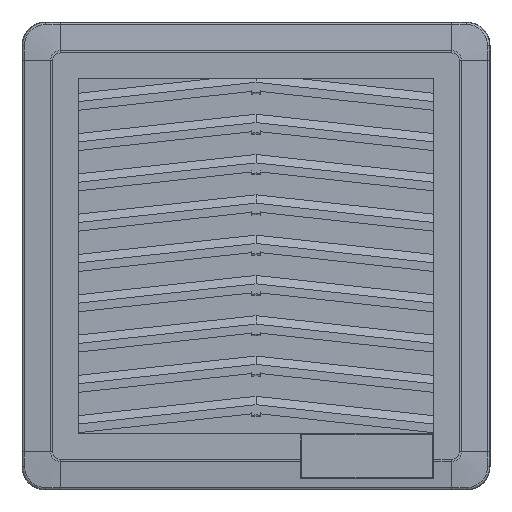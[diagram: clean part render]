
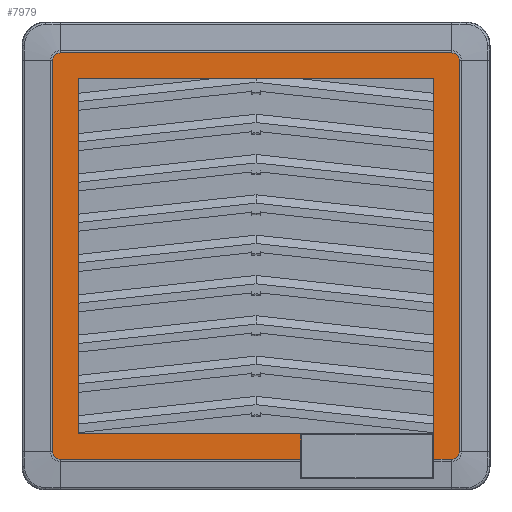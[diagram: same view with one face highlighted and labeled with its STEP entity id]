
A CAD part, front view. The second image highlights one B-rep face of the part: STEP entity #7979.
In plain terms, the highlighted planar face has unit normal (0, -1, 0) as drawn and (0, 0, 1) by its records, which use the part's own axes.
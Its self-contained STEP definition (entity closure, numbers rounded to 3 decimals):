
#9 = EDGE_CURVE ( 'NONE', #5827, #11999, #13067, .T. ) ;
#322 = AXIS2_PLACEMENT_3D ( 'NONE', #10296, #13452, #16125 ) ;
#469 = ORIENTED_EDGE ( 'NONE', *, *, #3135, .T. ) ;
#511 = CARTESIAN_POINT ( 'NONE',  ( 44.537, -44.537, 6.5 ) ) ;
#527 = VECTOR ( 'NONE', #11536, 1000. ) ;
#801 = VECTOR ( 'NONE', #16744, 1000. ) ;
#849 = VECTOR ( 'NONE', #1821, 1000. ) ;
#871 = VERTEX_POINT ( 'NONE', #18079 ) ;
#889 = DIRECTION ( 'NONE',  ( -1., 0., 0. ) ) ;
#1178 = LINE ( 'NONE', #12865, #527 ) ;
#1319 = DIRECTION ( 'NONE',  ( 1., 0., 0. ) ) ;
#1679 = VERTEX_POINT ( 'NONE', #6716 ) ;
#1821 = DIRECTION ( 'NONE',  ( 0., 1., 0. ) ) ;
#1979 = LINE ( 'NONE', #8993, #2113 ) ;
#2110 = EDGE_CURVE ( 'NONE', #871, #1679, #2470, .T. ) ;
#2113 = VECTOR ( 'NONE', #11774, 1000. ) ;
#2136 = LINE ( 'NONE', #10856, #9444 ) ;
#2347 = DIRECTION ( 'NONE',  ( -1., 0., 0. ) ) ;
#2470 = LINE ( 'NONE', #6878, #801 ) ;
#2533 = ORIENTED_EDGE ( 'NONE', *, *, #9, .F. ) ;
#2582 = ORIENTED_EDGE ( 'NONE', *, *, #7623, .T. ) ;
#2817 = EDGE_CURVE ( 'NONE', #5827, #11095, #5297, .T. ) ;
#3020 = DIRECTION ( 'NONE',  ( 0., -1., 0. ) ) ;
#3135 = EDGE_CURVE ( 'NONE', #11095, #11531, #1178, .T. ) ;
#3259 = DIRECTION ( 'NONE',  ( -1., 0., 0. ) ) ;
#3333 = DIRECTION ( 'NONE',  ( 0., -1., 0. ) ) ;
#3363 = CARTESIAN_POINT ( 'NONE',  ( -44.537, -44.537, 6.5 ) ) ;
#3449 = ORIENTED_EDGE ( 'NONE', *, *, #14165, .T. ) ;
#3454 = LINE ( 'NONE', #7845, #849 ) ;
#3524 = VECTOR ( 'NONE', #16602, 1000. ) ;
#4509 = AXIS2_PLACEMENT_3D ( 'NONE', #13941, #6758, #2347 ) ;
#4529 = ORIENTED_EDGE ( 'NONE', *, *, #2110, .T. ) ;
#4552 = ORIENTED_EDGE ( 'NONE', *, *, #5450, .F. ) ;
#4636 = CARTESIAN_POINT ( 'NONE',  ( -44.537, -46.275, 6.5 ) ) ;
#4756 = CARTESIAN_POINT ( 'NONE',  ( 40.45, 40.5, 6.5 ) ) ;
#5112 = VECTOR ( 'NONE', #7214, 1000. ) ;
#5297 = LINE ( 'NONE', #6643, #3524 ) ;
#5450 = EDGE_CURVE ( 'NONE', #871, #10810, #3454, .T. ) ;
#5626 = VERTEX_POINT ( 'NONE', #14920 ) ;
#5628 = LINE ( 'NONE', #17501, #9837 ) ;
#5638 = DIRECTION ( 'NONE',  ( -1., 0., 0. ) ) ;
#5746 = EDGE_CURVE ( 'NONE', #10122, #5626, #1979, .T. ) ;
#5827 = VERTEX_POINT ( 'NONE', #18437 ) ;
#6324 = DIRECTION ( 'NONE',  ( 0., 0., 1. ) ) ;
#6454 = CARTESIAN_POINT ( 'NONE',  ( -46.275, 44.537, 6.5 ) ) ;
#6643 = CARTESIAN_POINT ( 'NONE',  ( 40.45, -40.5, 6.5 ) ) ;
#6716 = CARTESIAN_POINT ( 'NONE',  ( 44.537, -46.275, 6.5 ) ) ;
#6726 = DIRECTION ( 'NONE',  ( -1., 0., 0. ) ) ;
#6758 = DIRECTION ( 'NONE',  ( 0., 0., 1. ) ) ;
#6878 = CARTESIAN_POINT ( 'NONE',  ( 0., -46.275, 6.5 ) ) ;
#7081 = CARTESIAN_POINT ( 'NONE',  ( 0., 0., 6.5 ) ) ;
#7214 = DIRECTION ( 'NONE',  ( -1., 0., 0. ) ) ;
#7276 = CIRCLE ( 'NONE', #14635, 1.738 ) ;
#7538 = LINE ( 'NONE', #15105, #11365 ) ;
#7623 = EDGE_CURVE ( 'NONE', #5626, #8591, #14986, .T. ) ;
#7731 = CARTESIAN_POINT ( 'NONE',  ( 10.15, -46.275, 6.5 ) ) ;
#7845 = CARTESIAN_POINT ( 'NONE',  ( 40.45, -40.5, 6.5 ) ) ;
#7875 = CIRCLE ( 'NONE', #14617, 1.738 ) ;
#7886 = CARTESIAN_POINT ( 'NONE',  ( 46.275, -44.537, 6.5 ) ) ;
#7979 = ADVANCED_FACE ( 'NONE', ( #9956 ), #15790, .F. ) ;
#8055 = ORIENTED_EDGE ( 'NONE', *, *, #13013, .T. ) ;
#8320 = CARTESIAN_POINT ( 'NONE',  ( -46.275, -44.537, 6.5 ) ) ;
#8591 = VERTEX_POINT ( 'NONE', #12411 ) ;
#8882 = ORIENTED_EDGE ( 'NONE', *, *, #13888, .F. ) ;
#8993 = CARTESIAN_POINT ( 'NONE',  ( 46.275, 0., 6.5 ) ) ;
#9444 = VECTOR ( 'NONE', #6726, 1000. ) ;
#9711 = EDGE_CURVE ( 'NONE', #12709, #18613, #15821, .T. ) ;
#9837 = VECTOR ( 'NONE', #1319, 1000. ) ;
#9941 = EDGE_CURVE ( 'NONE', #8591, #12709, #10121, .T. ) ;
#9956 = FACE_OUTER_BOUND ( 'NONE', #10610, .T. ) ;
#10108 = EDGE_CURVE ( 'NONE', #1679, #10122, #7875, .T. ) ;
#10121 = LINE ( 'NONE', #15945, #5112 ) ;
#10122 = VERTEX_POINT ( 'NONE', #7886 ) ;
#10296 = CARTESIAN_POINT ( 'NONE',  ( 44.537, 44.537, 6.5 ) ) ;
#10610 = EDGE_LOOP ( 'NONE', ( #4552, #4529, #10700, #17951, #2582, #15611, #15334, #8055, #3449, #12700, #2533, #14726, #469, #8882 ) ) ;
#10640 = CARTESIAN_POINT ( 'NONE',  ( -40.45, 40.5, 6.5 ) ) ;
#10700 = ORIENTED_EDGE ( 'NONE', *, *, #10108, .T. ) ;
#10772 = DIRECTION ( 'NONE',  ( 0., 0., 1. ) ) ;
#10810 = VERTEX_POINT ( 'NONE', #4756 ) ;
#10856 = CARTESIAN_POINT ( 'NONE',  ( 40.45, 40.5, 6.5 ) ) ;
#11095 = VERTEX_POINT ( 'NONE', #14498 ) ;
#11365 = VECTOR ( 'NONE', #3333, 1000. ) ;
#11531 = VERTEX_POINT ( 'NONE', #10640 ) ;
#11536 = DIRECTION ( 'NONE',  ( 0., 1., 0. ) ) ;
#11774 = DIRECTION ( 'NONE',  ( 0., 1., 0. ) ) ;
#11800 = EDGE_CURVE ( 'NONE', #14781, #11999, #5628, .T. ) ;
#11999 = VERTEX_POINT ( 'NONE', #7731 ) ;
#12258 = AXIS2_PLACEMENT_3D ( 'NONE', #7081, #12922, #5638 ) ;
#12411 = CARTESIAN_POINT ( 'NONE',  ( 44.537, 46.275, 6.5 ) ) ;
#12700 = ORIENTED_EDGE ( 'NONE', *, *, #11800, .T. ) ;
#12709 = VERTEX_POINT ( 'NONE', #16562 ) ;
#12815 = VERTEX_POINT ( 'NONE', #8320 ) ;
#12865 = CARTESIAN_POINT ( 'NONE',  ( -40.45, -40.5, 6.5 ) ) ;
#12922 = DIRECTION ( 'NONE',  ( 0., 0., -1. ) ) ;
#13013 = EDGE_CURVE ( 'NONE', #18613, #12815, #7538, .T. ) ;
#13067 = LINE ( 'NONE', #17372, #14955 ) ;
#13452 = DIRECTION ( 'NONE',  ( 0., 0., 1. ) ) ;
#13888 = EDGE_CURVE ( 'NONE', #10810, #11531, #2136, .T. ) ;
#13941 = CARTESIAN_POINT ( 'NONE',  ( -44.537, 44.537, 6.5 ) ) ;
#14165 = EDGE_CURVE ( 'NONE', #12815, #14781, #7276, .T. ) ;
#14498 = CARTESIAN_POINT ( 'NONE',  ( -40.45, -40.5, 6.5 ) ) ;
#14617 = AXIS2_PLACEMENT_3D ( 'NONE', #511, #10772, #889 ) ;
#14635 = AXIS2_PLACEMENT_3D ( 'NONE', #3363, #6324, #3259 ) ;
#14726 = ORIENTED_EDGE ( 'NONE', *, *, #2817, .T. ) ;
#14781 = VERTEX_POINT ( 'NONE', #4636 ) ;
#14920 = CARTESIAN_POINT ( 'NONE',  ( 46.275, 44.537, 6.5 ) ) ;
#14955 = VECTOR ( 'NONE', #3020, 1000. ) ;
#14986 = CIRCLE ( 'NONE', #322, 1.738 ) ;
#15105 = CARTESIAN_POINT ( 'NONE',  ( -46.275, 0., 6.5 ) ) ;
#15334 = ORIENTED_EDGE ( 'NONE', *, *, #9711, .T. ) ;
#15611 = ORIENTED_EDGE ( 'NONE', *, *, #9941, .T. ) ;
#15790 = PLANE ( 'NONE',  #12258 ) ;
#15821 = CIRCLE ( 'NONE', #4509, 1.738 ) ;
#15945 = CARTESIAN_POINT ( 'NONE',  ( 0., 46.275, 6.5 ) ) ;
#16125 = DIRECTION ( 'NONE',  ( -1., 0., 0. ) ) ;
#16562 = CARTESIAN_POINT ( 'NONE',  ( -44.537, 46.275, 6.5 ) ) ;
#16602 = DIRECTION ( 'NONE',  ( -1., 0., 0. ) ) ;
#16744 = DIRECTION ( 'NONE',  ( 1., 0., 0. ) ) ;
#17372 = CARTESIAN_POINT ( 'NONE',  ( 10.15, -40.5, 6.5 ) ) ;
#17501 = CARTESIAN_POINT ( 'NONE',  ( 0., -46.275, 6.5 ) ) ;
#17951 = ORIENTED_EDGE ( 'NONE', *, *, #5746, .T. ) ;
#18079 = CARTESIAN_POINT ( 'NONE',  ( 40.45, -46.275, 6.5 ) ) ;
#18437 = CARTESIAN_POINT ( 'NONE',  ( 10.15, -40.5, 6.5 ) ) ;
#18613 = VERTEX_POINT ( 'NONE', #6454 ) ;
